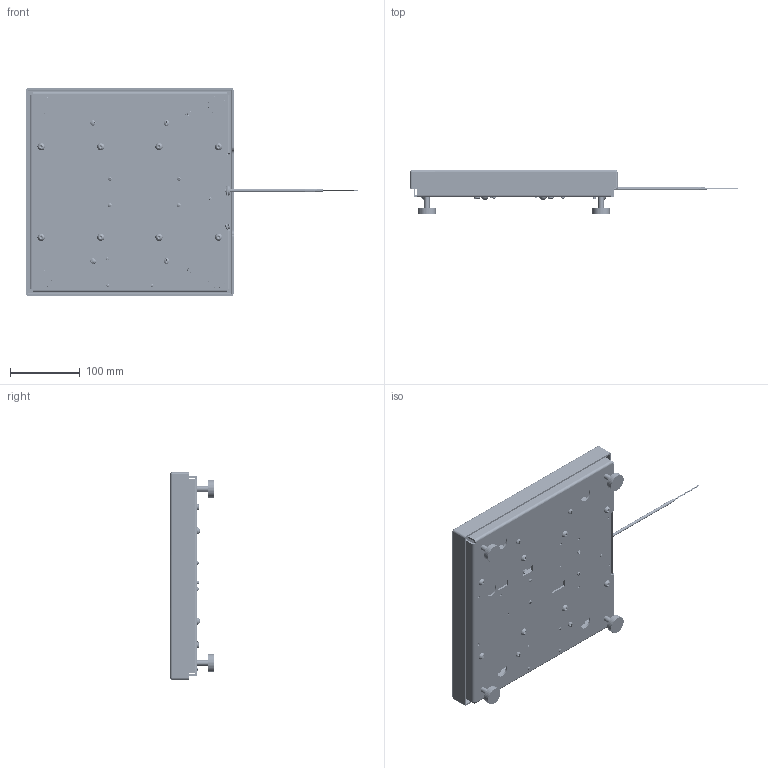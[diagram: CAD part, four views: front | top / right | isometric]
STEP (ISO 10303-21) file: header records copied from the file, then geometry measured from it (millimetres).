
FILE_DESCRIPTION (( 'STEP AP214' ), '1' );
FILE_NAME ('HI1212SBA-33.STEP', '2019-08-22T15:13:13', ( '' ), ( '' ), 'SwSTEP 2.0', 'SolidWorks 2017', '' );
FILE_SCHEMA (( 'AUTOMOTIVE_DESIGN' ));
Length unit declared in the file: inch
Products named in the file (46): 0067049; pan cross head_ai_CR-PHMS 0.164-32x0.3125x0.3125-N-A2.70; 0530-0629-XX; 0044535; 0075295; 0075294; 0075231_PBSH-15kg 300 X 300; 0075287_C2 CHIP; 0018546; 2815-0157_91780A167; 2140-0019-01; 0075198; 0530-0628-01; 0075232_80-001903; machine screw nut hex_ai_MSHXNUT 0.164-32-D-N; 0535-0420-02; 0074881_PBSH-3.75kg SUB-ASSEMBLY; 0075305_42-000848; 0075172_A1 & 2; 0075293; 0074756_Modified By Hardy; 0075175_84-001322; socket head cap screw_am_B18.3.1M - 5 x 0.8 x 20 Hex SHCS -- 20NHX-A2.70; 0075200_93505A451; pan cross head_ai_CR-PHMS 0.112-40x0.3125x0.3125-N; 0530-0654-01; 2140-0019-02; 0075309; 2814-0098-0_90633A007; socket head cap screw_am_B18.3.1M - 4 x 0.7 x 8 Hex SHCS -- 8NHX-A2.70; 0514-0239-01-0; 0074914_Modified By Hardy; 0075173_B1 & 2; 0074871; 0075230_91780A198; flat head screw_ai_CR-FHMS 0.164-32x0.875x0.875-N-A2.70; 0075290; 0075174_1 & 2; 0075233; socket button head cap screw_am_B18.3.4M - 6 x 1.0 x 20 SBHCS --N-A2.70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
Assembly tree (96 placements, depth 4):
  HI1212SBA-33
    0074914_Modified By Hardy
    0075309
    0075175_84-001322  x4
      0075172_A1 & 2
      0075174_1 & 2
      0075173_B1 & 2
    machine screw nut hex_ai_MSHXNUT 0.164-32-D-N  x4
    0074756_Modified By Hardy
    0075198  x4
    0075200_93505A451  x4
    0075290
      0075233
      0018546  x4
      0075287_C2 CHIP
      0075295  x4
        0075294
        0075293
    pan cross head_ai_CR-PHMS 0.164-32x0.3125x0.3125-N-A2.70  x4
    0074881_PBSH-3.75kg SUB-ASSEMBLY  x4
      0074871
      0044535
      0067049
      socket head cap screw_am_B18.3.1M - 5 x 0.8 x 20 Hex SHCS -- 20NHX-A2.70
    0075231_PBSH-15kg 300 X 300  x4
      0075230_91780A198
      0075232_80-001903
      flat head screw_ai_CR-FHMS 0.164-32x0.875x0.875-N-A2.70
      pan cross head_ai_CR-PHMS 0.164-32x0.3125x0.3125-N-A2.70
    socket button head cap screw_am_B18.3.4M - 6 x 1.0 x 20 SBHCS --N-A2.70  x8
    2814-0098-0_90633A007  x2
    0514-0239-01-0
    2817-0272-0_90402A146
    2808-0013-0
    socket head cap screw_am_B18.3.1M - 4 x 0.7 x 8 Hex SHCS -- 8NHX-A2.70
    0075305_42-000848
    0535-0420-02
      0534-0393
      Bourns_3299W  x3
      2140-0019-01
      2140-0019-02
    2815-0157_91780A167  x4
    pan cross head_ai_CR-PHMS 0.112-40x0.3125x0.3125-N  x8
    6005-T009
    0530-0654-01
    0530-0628-01
    0530-0629-XX
Bounding box: 477 x 62.96 x 298.19 mm (x, y, z)
Volume: 822794 mm3; surface area: 632366.4 mm2
Topology: 226 solids, 226 shells, 11747 faces, 30696 edges, 19847 vertices
Faces by surface type: plane 8017, cylinder 2038, cone 788, bspline 654, torus 168, sphere 82
Entity records: 361777 total; most frequent: CARTESIAN_POINT 75463, ORIENTED_EDGE 43892, DIRECTION 37580, EDGE_CURVE 21946, VECTOR 18040, LINE 18040, VERTEX_POINT 14423, AXIS2_PLACEMENT_3D 9770
